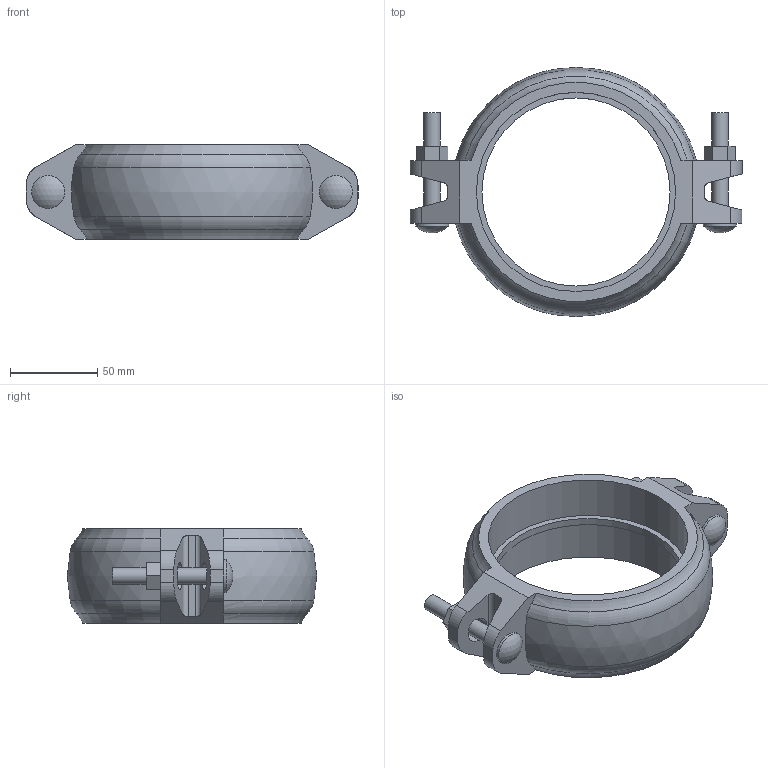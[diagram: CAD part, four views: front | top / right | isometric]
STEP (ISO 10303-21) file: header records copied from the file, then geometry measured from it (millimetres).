
FILE_DESCRIPTION(/* description */ ('VICTAULIC STYLE 009N FIRELOCK EZ RIGID COUPLING','CAx-IF Rec.Pracs.---Representation and Presentation of Product Manufacturing Information (PMI)---4.0---2014-10-13'),/* implementation_level */ '2;1');
FILE_NAME(/* name */ 'C:\Users\Vjadhav\AppData\Roaming\Autodesk\ApplicationPlugins\Victaulic.Temp\A361\Victaulic_FP-FireLock_Coupling Rigid_IR_Style 009N (OGS)_4 (100).stp',/* time_stamp */ '2022-03-23T18:54:53+05:00',/* author */ ('Vjadhav'),/* organization */ ('Victaulic'),/* preprocessor_version */ 'ST-DEVELOPER v17.2',/* originating_system */ 'Autodesk Inventor 2019',/* authorisation */ '');
FILE_SCHEMA (('AP242_MANAGED_MODEL_BASED_3D_ENGINEERING_MIM_LF { 1 0 10303 442 1 1 4 }'));
Length unit declared in the file: inch
Products named in the file (2): 009N-04.0; 009N-04.0_1
Assembly tree (1 placements, depth 2):
  009N-04.0
    009N-04.0_1
Bounding box: 190.5 x 143 x 54.1 mm (x, y, z)
Volume: 319733.8 mm3; surface area: 65559.2 mm2
Topology: 1 solids, 1 shells, 91 faces, 251 edges, 170 vertices
Faces by surface type: plane 50, cylinder 29, torus 8, sphere 2, bspline 2
Full cylindrical faces by diameter (mm): 9.525 x4, 19.05 x2, 107.95 x1, 114.3 x2
Entity records: 3259 total; most frequent: CARTESIAN_POINT 691, ORIENTED_EDGE 502, DIRECTION 501, EDGE_CURVE 251, AXIS2_PLACEMENT_3D 178, VERTEX_POINT 170, LINE 145, VECTOR 145
